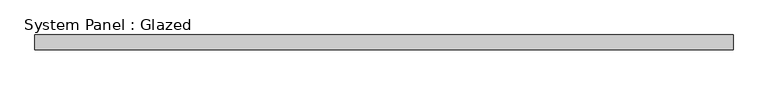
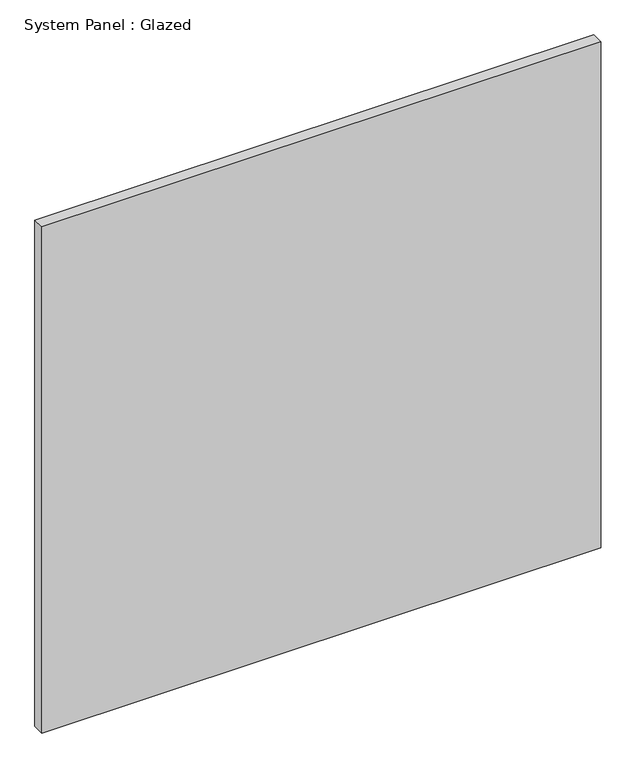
"""IFC4 building model written with IfcOpenShell, lengths in millimetres: plate geometry, System Panel : Glazed."""

from ifc_helpers import new_model, si_unit, origin, origin_with_axes, place, context, project, spatial, polyline, outline, extrude, source, transform, mapped, element, save


def system_panel_glazed_d052432a(model_context):
    return source(origin(), model_context, "Body", "SweptSolid", [
        extrude(outline(polyline([(587.4999999, 24.5), (-587.4999999, 24.5), (-587.4999999, 49.5), (587.4999999, 49.5), (587.4999999, 24.5)])), origin_with_axes(), (0.0, 0.0, 1.0), 1125.0),
    ])


if __name__ == "__main__":
    model = new_model("IFC4")
    model_context = context("Model", 3, world=origin())
    ifc_project = project(units=[si_unit("LENGTHUNIT", "METRE", prefix="MILLI")], contexts=[model_context])
    site = spatial("IfcSite", under=ifc_project)
    building = spatial("IfcBuilding", under=site)
    placement = place(None, origin())
    system_panel_glazed_shape = system_panel_glazed_d052432a(model_context)
    element("IfcPlate", 1, ObjectType="System Panel : Glazed", at=placement, inside=building, context=model_context, shape_type="MappedRepresentation", body=[
        mapped(system_panel_glazed_shape, transform((0.0, 0.0, 0.0), x_axis=(1.0, 0.0, 0.0), y_axis=(0.0, 1.0, 0.0), z_axis=(0.0, 0.0, 1.0))),
    ])
    save(model, "model.ifc")
